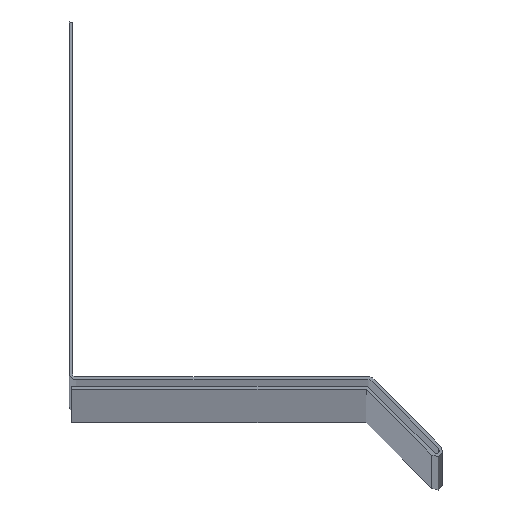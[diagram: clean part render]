
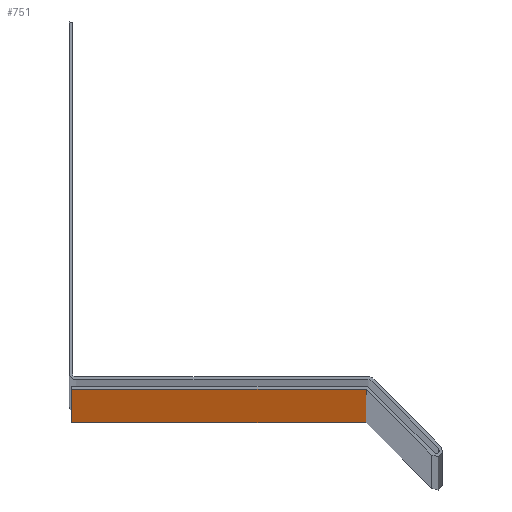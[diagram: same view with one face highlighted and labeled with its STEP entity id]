
A CAD part, top view. The second image highlights one B-rep face of the part: STEP entity #751.
In plain terms, the highlighted planar face has unit normal (0, -1, 0).
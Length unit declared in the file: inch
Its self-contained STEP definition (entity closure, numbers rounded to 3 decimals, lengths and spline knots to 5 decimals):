
#3 = AXIS2_PLACEMENT_3D ( 'NONE', #356, #354, #24 ) ;
#7 = EDGE_CURVE ( 'NONE', #282, #645, #635, .T. ) ;
#24 = DIRECTION ( 'NONE',  ( 1., 0., 0. ) ) ;
#56 = VECTOR ( 'NONE', #711, 39.37008 ) ;
#64 = DIRECTION ( 'NONE',  ( 0., 0., -1. ) ) ;
#72 = FACE_OUTER_BOUND ( 'NONE', #626, .T. ) ;
#95 = CARTESIAN_POINT ( 'NONE',  ( 1.86672, -0.06, 120. ) ) ;
#150 = LINE ( 'NONE', #825, #458 ) ;
#177 = CARTESIAN_POINT ( 'NONE',  ( 0.0143, -0.06, 0. ) ) ;
#194 = VERTEX_POINT ( 'NONE', #177 ) ;
#282 = VERTEX_POINT ( 'NONE', #537 ) ;
#295 = ORIENTED_EDGE ( 'NONE', *, *, #783, .T. ) ;
#328 = DIRECTION ( 'NONE',  ( -1., 0., 0. ) ) ;
#354 = DIRECTION ( 'NONE',  ( 0., -1., 0. ) ) ;
#356 = CARTESIAN_POINT ( 'NONE',  ( 1.86672, -0.06, 120. ) ) ;
#387 = CARTESIAN_POINT ( 'NONE',  ( 1.86672, -0.06, 120. ) ) ;
#404 = PLANE ( 'NONE',  #3 ) ;
#458 = VECTOR ( 'NONE', #328, 39.37008 ) ;
#462 = VECTOR ( 'NONE', #64, 39.37008 ) ;
#486 = EDGE_CURVE ( 'NONE', #766, #194, #608, .T. ) ;
#537 = CARTESIAN_POINT ( 'NONE',  ( 1.86672, -0.06, 120. ) ) ;
#553 = CARTESIAN_POINT ( 'NONE',  ( 0.0143, -0.06, 120. ) ) ;
#555 = CARTESIAN_POINT ( 'NONE',  ( 1.86672, -0.06, 0. ) ) ;
#586 = VECTOR ( 'NONE', #743, 39.37008 ) ;
#591 = ORIENTED_EDGE ( 'NONE', *, *, #7, .F. ) ;
#608 = LINE ( 'NONE', #553, #586 ) ;
#626 = EDGE_LOOP ( 'NONE', ( #769, #591, #295, #752 ) ) ;
#635 = LINE ( 'NONE', #387, #462 ) ;
#645 = VERTEX_POINT ( 'NONE', #555 ) ;
#689 = EDGE_CURVE ( 'NONE', #645, #194, #150, .T. ) ;
#708 = CARTESIAN_POINT ( 'NONE',  ( 0.0143, -0.06, 120. ) ) ;
#711 = DIRECTION ( 'NONE',  ( -1., 0., 0. ) ) ;
#743 = DIRECTION ( 'NONE',  ( 0., 0., -1. ) ) ;
#749 = LINE ( 'NONE', #95, #56 ) ;
#751 = ADVANCED_FACE ( 'NONE', ( #72 ), #404, .T. ) ;
#752 = ORIENTED_EDGE ( 'NONE', *, *, #486, .T. ) ;
#766 = VERTEX_POINT ( 'NONE', #708 ) ;
#769 = ORIENTED_EDGE ( 'NONE', *, *, #689, .F. ) ;
#783 = EDGE_CURVE ( 'NONE', #282, #766, #749, .T. ) ;
#825 = CARTESIAN_POINT ( 'NONE',  ( 1.86672, -0.06, 0. ) ) ;
